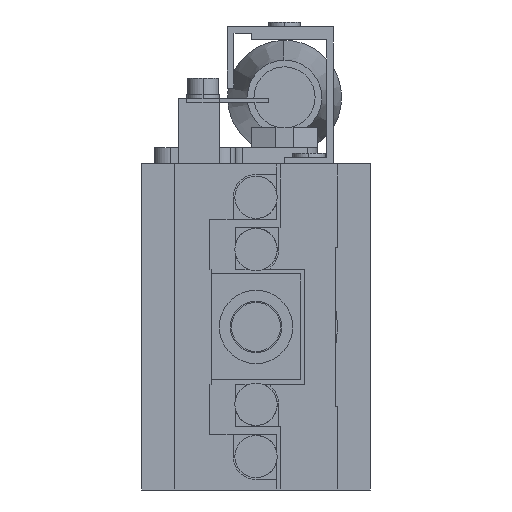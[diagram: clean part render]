
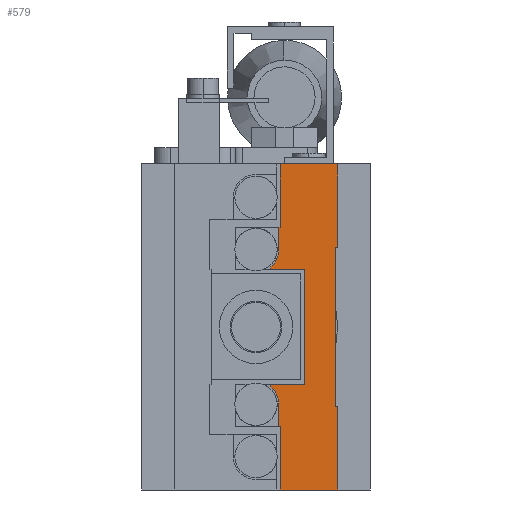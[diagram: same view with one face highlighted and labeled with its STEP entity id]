
A CAD part, left-side view. The second image highlights one B-rep face of the part: STEP entity #579.
In plain terms, the highlighted planar face has unit normal (-1, 0, 0).
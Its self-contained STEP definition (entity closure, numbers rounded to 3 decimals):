
#579=ADVANCED_FACE('',(#1443),#1444,.F.);
#1443=FACE_OUTER_BOUND('',#2637,.T.);
#1444=PLANE('',#2638);
#2637=EDGE_LOOP('',(#5339,#5340,#5341,#5342,#5343,#5344,#5345,#5346,#5347,#5348,#5349,#5350,#5351,#5352,#5353,#5354,#5355,#5356,#5357,#5358));
#2638=AXIS2_PLACEMENT_3D('',#5359,#5360,#5361);
#5339=ORIENTED_EDGE('',*,*,#8321,.T.);
#5340=ORIENTED_EDGE('',*,*,#8330,.T.);
#5341=ORIENTED_EDGE('',*,*,#8332,.T.);
#5342=ORIENTED_EDGE('',*,*,#8344,.F.);
#5343=ORIENTED_EDGE('',*,*,#8335,.F.);
#5344=ORIENTED_EDGE('',*,*,#8368,.F.);
#5345=ORIENTED_EDGE('',*,*,#8249,.F.);
#5346=ORIENTED_EDGE('',*,*,#8379,.F.);
#5347=ORIENTED_EDGE('',*,*,#8227,.F.);
#5348=ORIENTED_EDGE('',*,*,#8348,.F.);
#5349=ORIENTED_EDGE('',*,*,#8372,.F.);
#5350=ORIENTED_EDGE('',*,*,#8365,.F.);
#5351=ORIENTED_EDGE('',*,*,#8358,.F.);
#5352=ORIENTED_EDGE('',*,*,#8291,.F.);
#5353=ORIENTED_EDGE('',*,*,#8370,.T.);
#5354=ORIENTED_EDGE('',*,*,#8380,.T.);
#5355=ORIENTED_EDGE('',*,*,#8381,.T.);
#5356=ORIENTED_EDGE('',*,*,#8319,.F.);
#5357=ORIENTED_EDGE('',*,*,#8237,.F.);
#5358=ORIENTED_EDGE('',*,*,#8300,.F.);
#5359=CARTESIAN_POINT('',(-30.0,0.,0.0));
#5360=DIRECTION('',(1.0,0.0,0.0));
#5361=DIRECTION('',(0.0,1.0,0.0));
#8227=EDGE_CURVE('',#9963,#9964,#9965,.T.);
#8237=EDGE_CURVE('',#9982,#9983,#9984,.T.);
#8249=EDGE_CURVE('',#10002,#10003,#10004,.T.);
#8291=EDGE_CURVE('',#10063,#10065,#10066,.T.);
#8300=EDGE_CURVE('',#10079,#9982,#10081,.T.);
#8319=EDGE_CURVE('',#9983,#10097,#10108,.T.);
#8321=EDGE_CURVE('',#10079,#10110,#10111,.T.);
#8330=EDGE_CURVE('',#10110,#10124,#10125,.T.);
#8332=EDGE_CURVE('',#10124,#10127,#10128,.T.);
#8335=EDGE_CURVE('',#10131,#10132,#10133,.T.);
#8344=EDGE_CURVE('',#10132,#10127,#10147,.T.);
#8348=EDGE_CURVE('',#10151,#9963,#10152,.T.);
#8358=EDGE_CURVE('',#10065,#10163,#10164,.T.);
#8365=EDGE_CURVE('',#10163,#10174,#10175,.T.);
#8368=EDGE_CURVE('',#10003,#10131,#10179,.T.);
#8370=EDGE_CURVE('',#10063,#10181,#10182,.T.);
#8372=EDGE_CURVE('',#10174,#10151,#10184,.T.);
#8379=EDGE_CURVE('',#9964,#10002,#10191,.T.);
#8380=EDGE_CURVE('',#10181,#10192,#10193,.T.);
#8381=EDGE_CURVE('',#10192,#10097,#10194,.T.);
#9963=VERTEX_POINT('',#12544);
#9964=VERTEX_POINT('',#12545);
#9965=LINE('',#12546,#12547);
#9982=VERTEX_POINT('',#12569);
#9983=VERTEX_POINT('',#12570);
#9984=LINE('',#12571,#12572);
#10002=VERTEX_POINT('',#12595);
#10003=VERTEX_POINT('',#12596);
#10004=LINE('',#12597,#12598);
#10063=VERTEX_POINT('',#12675);
#10065=VERTEX_POINT('',#12678);
#10066=LINE('',#12679,#12680);
#10079=VERTEX_POINT('',#12699);
#10081=LINE('',#12702,#12703);
#10097=VERTEX_POINT('',#12727);
#10108=LINE('',#12746,#12747);
#10110=VERTEX_POINT('',#12749);
#10111=LINE('',#12750,#12751);
#10124=VERTEX_POINT('',#12769);
#10125=CIRCLE('',#12770,2.8);
#10127=VERTEX_POINT('',#12773);
#10128=LINE('',#12774,#12775);
#10131=VERTEX_POINT('',#12779);
#10132=VERTEX_POINT('',#12780);
#10133=LINE('',#12781,#12782);
#10147=LINE('',#12803,#12804);
#10151=VERTEX_POINT('',#12809);
#10152=LINE('',#12810,#12811);
#10163=VERTEX_POINT('',#12826);
#10164=LINE('',#12827,#12828);
#10174=VERTEX_POINT('',#12842);
#10175=LINE('',#12843,#12844);
#10179=LINE('',#12850,#12851);
#10181=VERTEX_POINT('',#12854);
#10182=LINE('',#12855,#12856);
#10184=LINE('',#12859,#12860);
#10191=LINE('',#12873,#12874);
#10192=VERTEX_POINT('',#12875);
#10193=CIRCLE('',#12876,2.8);
#10194=LINE('',#12877,#12878);
#12544=CARTESIAN_POINT('',(-30.0,0.3,9.7));
#12545=CARTESIAN_POINT('',(-30.0,0.3,-9.7));
#12546=CARTESIAN_POINT('',(-30.0,0.3,9.7));
#12547=VECTOR('',#15485,1000.0);
#12569=CARTESIAN_POINT('',(-30.0,4.0,-7.0));
#12570=CARTESIAN_POINT('',(-30.0,4.0,7.0));
#12571=CARTESIAN_POINT('',(-30.0,4.0,-7.0));
#12572=VECTOR('',#15503,1000.0);
#12595=CARTESIAN_POINT('',(-30.0,0.,-9.7));
#12596=CARTESIAN_POINT('',(-30.0,0.,-20.0));
#12597=CARTESIAN_POINT('',(-30.0,0.,-9.7));
#12598=VECTOR('',#15527,1000.0);
#12675=CARTESIAN_POINT('',(-30.0,7.2,12.2));
#12678=CARTESIAN_POINT('',(-30.0,7.0,12.2));
#12679=CARTESIAN_POINT('',(-30.0,12.5,12.2));
#12680=VECTOR('',#15613,1000.0);
#12699=CARTESIAN_POINT('',(-30.0,8.2,-7.0));
#12702=CARTESIAN_POINT('',(-30.0,12.5,-7.0));
#12703=VECTOR('',#15624,1000.0);
#12727=CARTESIAN_POINT('',(-30.0,8.2,7.0));
#12746=CARTESIAN_POINT('',(-30.0,4.0,7.0));
#12747=VECTOR('',#15647,1000.0);
#12749=CARTESIAN_POINT('',(-30.0,8.2,-7.355));
#12750=CARTESIAN_POINT('',(-30.0,8.2,-7.0));
#12751=VECTOR('',#15651,1000.0);
#12769=CARTESIAN_POINT('',(-30.0,7.2,-9.5));
#12770=AXIS2_PLACEMENT_3D('',#15666,#15667,#15668);
#12773=CARTESIAN_POINT('',(-30.0,7.2,-12.2));
#12774=CARTESIAN_POINT('',(-30.0,7.2,-9.5));
#12775=VECTOR('',#15670,1000.0);
#12779=CARTESIAN_POINT('',(-30.0,7.0,-20.0));
#12780=CARTESIAN_POINT('',(-30.0,7.0,-12.2));
#12781=CARTESIAN_POINT('',(-30.0,7.0,-20.0));
#12782=VECTOR('',#15675,1000.0);
#12803=CARTESIAN_POINT('',(-30.0,7.0,-12.2));
#12804=VECTOR('',#15686,1000.0);
#12809=CARTESIAN_POINT('',(-30.0,0.,9.7));
#12810=CARTESIAN_POINT('',(-30.0,0.,9.7));
#12811=VECTOR('',#15694,1000.0);
#12826=CARTESIAN_POINT('',(-30.0,7.0,20.0));
#12827=CARTESIAN_POINT('',(-30.0,7.0,12.2));
#12828=VECTOR('',#15714,1000.0);
#12842=CARTESIAN_POINT('',(-30.0,0.,20.0));
#12843=CARTESIAN_POINT('',(-30.0,7.0,20.0));
#12844=VECTOR('',#15725,1000.0);
#12850=CARTESIAN_POINT('',(-30.0,0.,-20.0));
#12851=VECTOR('',#15728,1000.0);
#12854=CARTESIAN_POINT('',(-30.0,7.2,9.5));
#12855=CARTESIAN_POINT('',(-30.0,7.2,12.2));
#12856=VECTOR('',#15730,1000.0);
#12859=CARTESIAN_POINT('',(-30.0,0.,20.0));
#12860=VECTOR('',#15732,1000.0);
#12873=CARTESIAN_POINT('',(-30.0,0.3,-9.7));
#12874=VECTOR('',#15739,1000.0);
#12875=CARTESIAN_POINT('',(-30.0,8.2,7.355));
#12876=AXIS2_PLACEMENT_3D('',#15740,#15741,#15742);
#12877=CARTESIAN_POINT('',(-30.0,8.2,7.355));
#12878=VECTOR('',#15743,1000.0);
#15485=DIRECTION('',(0.0,0.0,-1.0));
#15503=DIRECTION('',(0.0,0.0,1.0));
#15527=DIRECTION('',(0.0,0.0,-1.0));
#15613=DIRECTION('',(0.0,-1.0,0.));
#15624=DIRECTION('',(0.0,-1.0,0.0));
#15647=DIRECTION('',(0.0,1.0,0.0));
#15651=DIRECTION('',(0.0,0.0,-1.0));
#15666=CARTESIAN_POINT('',(-30.0,10.0,-9.5));
#15667=DIRECTION('',(1.0,0.0,0.0));
#15668=DIRECTION('',(0.0,0.0,-1.0));
#15670=DIRECTION('',(0.0,0.0,-1.0));
#15675=DIRECTION('',(0.0,0.,1.0));
#15686=DIRECTION('',(0.0,1.0,0.0));
#15694=DIRECTION('',(0.0,1.0,0.0));
#15714=DIRECTION('',(0.0,0.,1.0));
#15725=DIRECTION('',(0.0,-1.0,0.0));
#15728=DIRECTION('',(0.0,1.0,0.0));
#15730=DIRECTION('',(0.0,0.0,-1.0));
#15732=DIRECTION('',(0.0,0.0,-1.0));
#15739=DIRECTION('',(0.0,-1.0,0.0));
#15740=CARTESIAN_POINT('',(-30.0,10.0,9.5));
#15741=DIRECTION('',(1.0,0.0,0.0));
#15742=DIRECTION('',(0.0,0.0,-1.0));
#15743=DIRECTION('',(0.0,0.0,-1.0));
